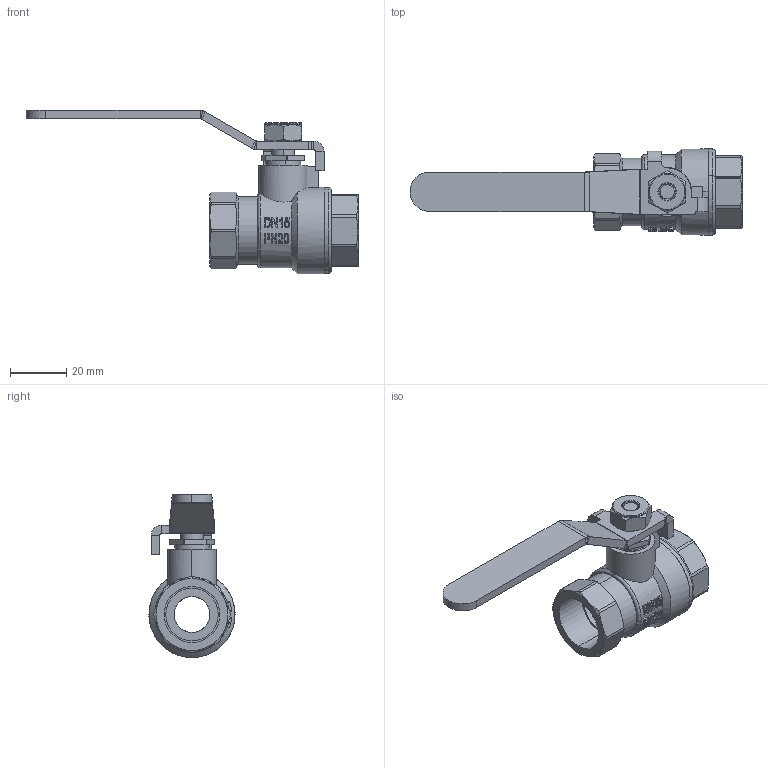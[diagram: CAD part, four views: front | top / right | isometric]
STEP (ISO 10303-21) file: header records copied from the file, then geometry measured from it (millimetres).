
FILE_DESCRIPTION(/* description */ (''),/* implementation_level */ '2;1');
FILE_NAME(/* name */ '0073.stp',/* time_stamp */ '2022-05-12T16:24:44+08:00',/* author */ (''),/* organization */ (''),/* preprocessor_version */ 'ST-DEVELOPER v11',/* originating_system */ 'SIEMENS PLM Software NX 7.5',/* authorisation */ '');
FILE_SCHEMA (('CONFIG_CONTROL_DESIGN'));
Length unit declared in the file: millimetre
Products named in the file (1): 0073
Bounding box: 117.65 x 30.5 x 57.79 mm (x, y, z)
Volume: 21430.2 mm3; surface area: 18521.8 mm2
Topology: 6 solids, 6 shells, 379 faces, 926 edges, 587 vertices
Faces by surface type: plane 148, cylinder 116, bspline 57, cone 48, torus 8, sphere 2
Entity records: 26877 total; most frequent: CARTESIAN_POINT 18271, ORIENTED_EDGE 1852, DIRECTION 1630, EDGE_CURVE 926, AXIS2_PLACEMENT_3D 641, VERTEX_POINT 587, EDGE_LOOP 419, ADVANCED_FACE 379
